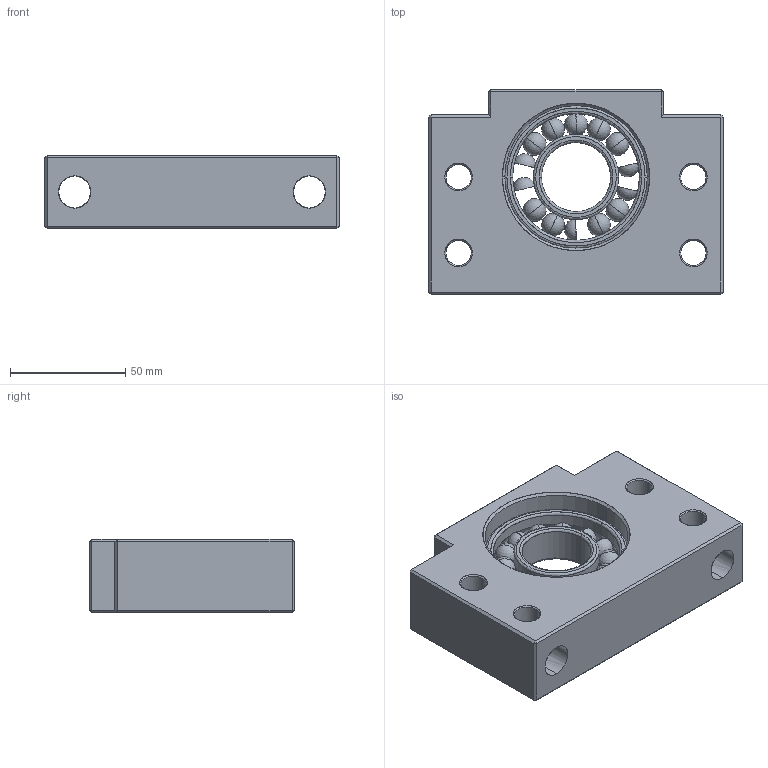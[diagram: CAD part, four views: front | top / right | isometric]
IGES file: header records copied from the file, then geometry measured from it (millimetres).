
Start section: SolidWorks IGES file using analytic representation for surfaces
Bounding box: 128 x 89 x 32 mm (x, y, z)
Surface area: 55220.6 mm2 (no closed solid volume)
Topology: 0 solids, 0 shells, 160 faces, 2436 edges, 2385 vertices
Faces by surface type: revolution 88, bspline 72
